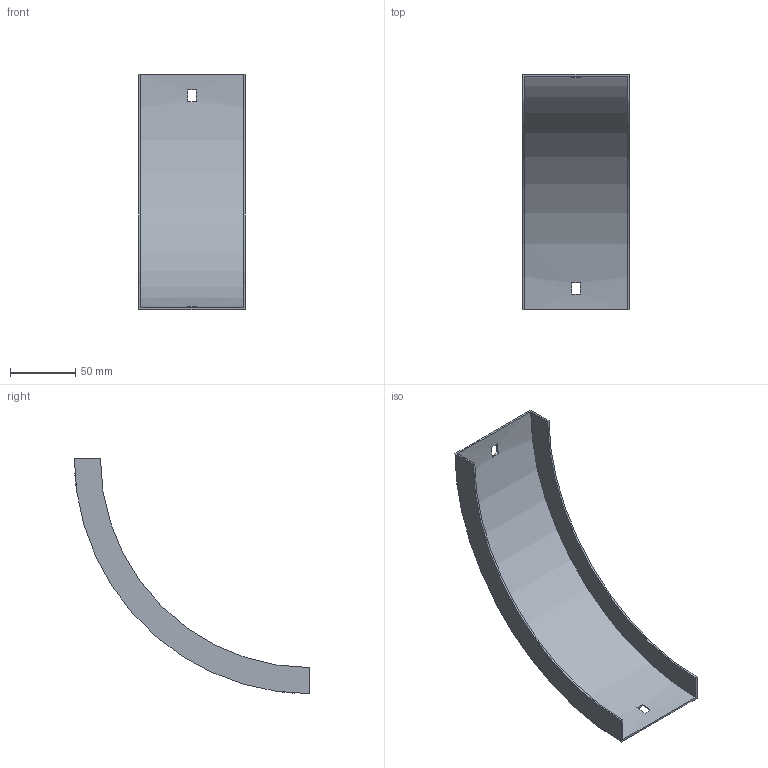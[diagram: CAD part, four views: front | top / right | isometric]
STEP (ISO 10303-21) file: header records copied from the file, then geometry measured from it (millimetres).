
FILE_DESCRIPTION (( 'STEP AP214' ), '1' );
FILE_NAME ('33N1C075.step', '2025-02-21T09:18:54', ( '' ), ( '' ), 'SwSTEP 2.0', 'SolidWorks 2023', '' );
FILE_SCHEMA (( 'AUTOMOTIVE_DESIGN' ));
Length unit declared in the file: millimetre
Products named in the file (1): 33N1C075
Bounding box: 82 x 180.5 x 180.5 mm (x, y, z)
Volume: 49351.5 mm3; surface area: 67012.3 mm2
Topology: 1 solids, 1 shells, 18 faces, 48 edges, 32 vertices
Faces by surface type: plane 14, cylinder 4
Entity records: 599 total; most frequent: DIRECTION 102, CARTESIAN_POINT 99, ORIENTED_EDGE 96, EDGE_CURVE 48, AXIS2_PLACEMENT_3D 35, LINE 32, VECTOR 32, VERTEX_POINT 32
